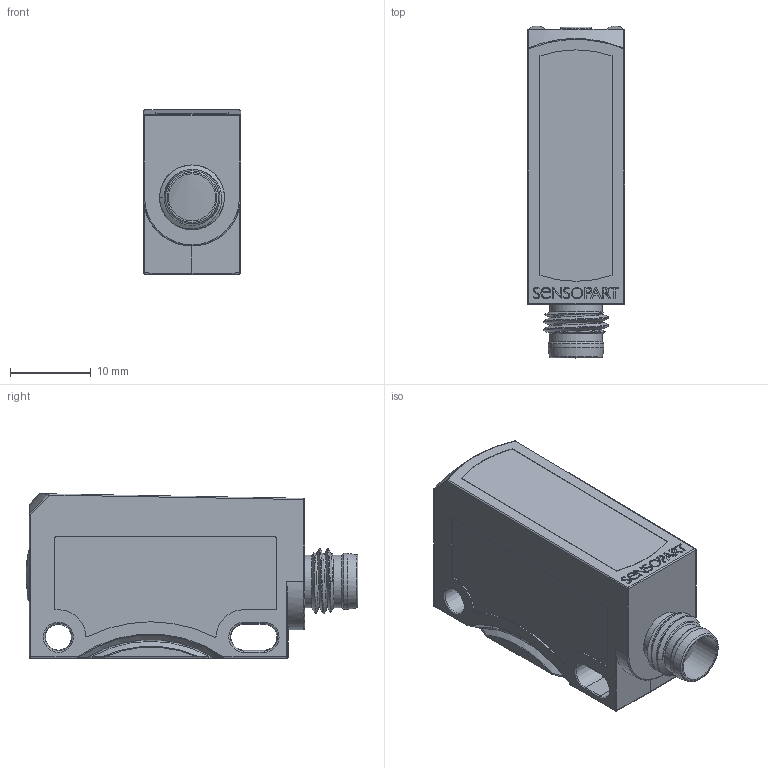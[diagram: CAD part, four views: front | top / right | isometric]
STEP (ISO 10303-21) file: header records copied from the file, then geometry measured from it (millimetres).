
FILE_DESCRIPTION(/* description */ (''),/* implementation_level */ '2;1');
FILE_NAME(/* name */ 'C:\#Vault-WorkDir\Konstruktions-Dokumente\Rohdaten für Publishing\Basisdaten\F 25 Stecker mit Teach-in.stp',/* time_stamp */ '2020-11-26T11:44:14+01:00',/* author */ ('SensoPart'),/* organization */ ('SensoPart'),/* preprocessor_version */ 'ST-DEVELOPER v17',/* originating_system */ 'Autodesk Inventor 2018',/* authorisation */ '');
FILE_SCHEMA (('AUTOMOTIVE_DESIGN { 1 0 10303 214 3 1 1 }'));
Length unit declared in the file: millimetre
Products named in the file (1): GH-ENG-0034250
Bounding box: 12 x 41 x 20.33 mm (x, y, z)
Volume: 7772.7 mm3; surface area: 3173.2 mm2
Topology: 1 solids, 1 shells, 244 faces, 605 edges, 368 vertices
Faces by surface type: plane 102, cylinder 64, bspline 28, sphere 18, torus 16, cone 16
Full cylindrical faces by diameter (mm): 1.215 x1, 1.422 x1, 5.8 x1, 6.5 x2, 6.9 x1, 8 x1
Entity records: 8850 total; most frequent: CARTESIAN_POINT 2997, ORIENTED_EDGE 1178, DIRECTION 1161, EDGE_CURVE 589, AXIS2_PLACEMENT_3D 426, VERTEX_POINT 368, LINE 309, VECTOR 309
